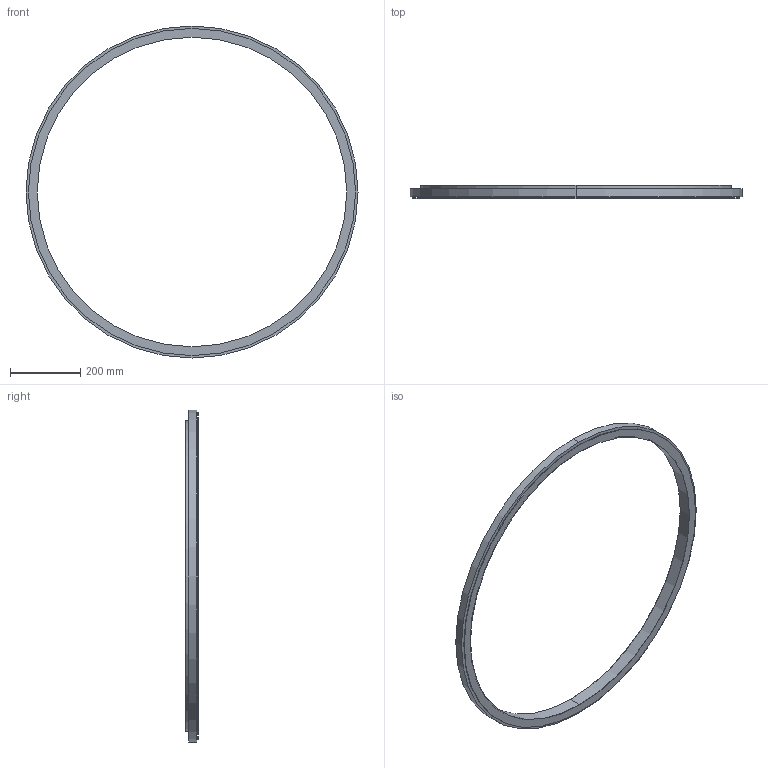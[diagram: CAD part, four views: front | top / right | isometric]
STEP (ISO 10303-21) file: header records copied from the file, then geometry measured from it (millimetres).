
FILE_DESCRIPTION (( 'STEP AP203' ), '1' );
FILE_NAME ('001_XX_900_Circolo Mini Baugruppe.STEP', '2015-02-11T14:05:35', ( '' ), ( '' ), 'SwSTEP 2.0', 'SolidWorks 2014', '' );
FILE_SCHEMA (( 'CONFIG_CONTROL_DESIGN' ));
Length unit declared in the file: millimetre
Products named in the file (3): 001_XX_900_Circolo Mini; 001_XX_900_Circolo Mini Plexi; 001_XX_900_Circolo Mini Baugruppe
Assembly tree (2 placements, depth 2):
  001_XX_900_Circolo Mini Baugruppe
    001_XX_900_Circolo Mini
    001_XX_900_Circolo Mini Plexi
Bounding box: 946 x 37 x 946 mm (x, y, z)
Volume: 1763127.8 mm3; surface area: 626615.8 mm2
Topology: 2 solids, 2 shells, 21 faces, 42 edges, 28 vertices
Faces by surface type: cylinder 14, plane 7
Entity records: 877 total; most frequent: DIRECTION 122, CARTESIAN_POINT 96, ORIENTED_EDGE 84, AXIS2_PLACEMENT_3D 54, EDGE_CURVE 42, VERTEX_POINT 28, EDGE_LOOP 28, CIRCLE 28
